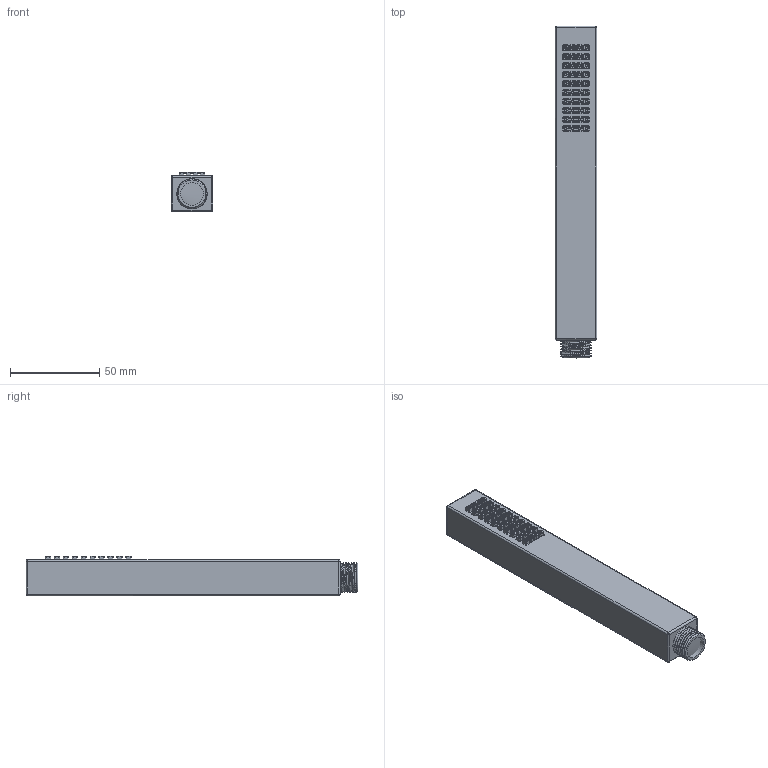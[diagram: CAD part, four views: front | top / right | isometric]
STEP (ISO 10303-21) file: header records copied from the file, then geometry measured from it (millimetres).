
FILE_DESCRIPTION(/* description */ (''),/* implementation_level */ '2;1');
FILE_NAME(/* name */ 'D:\Omnires\Export_Omnires\rys_step\5901867772688_stp.stp',/* time_stamp */ '2020-07-27T14:08:56+02:00',/* author */ (''),/* organization */ (''),/* preprocessor_version */ 'ST-DEVELOPER v18.1',/* originating_system */ 'Autodesk Inventor 2020',/* authorisation */ '');
FILE_SCHEMA (('AUTOMOTIVE_DESIGN { 1 0 10303 214 3 1 1 }'));
Length unit declared in the file: millimetre
Products named in the file (1): 5901867772688_dwg
Bounding box: 23.33 x 185.56 x 22.3 mm (x, y, z)
Surface area: 25792.7 mm2 (no closed solid volume)
Topology: 0 solids, 1 shells, 1149 faces, 2635 edges, 1542 vertices
Faces by surface type: bspline 734, cylinder 225, plane 149, torus 40, cone 1
Full cylindrical faces by diameter (mm): 1.2 x40, 12.764 x1, 15.137 x6, 16.85 x6
Entity records: 71258 total; most frequent: CARTESIAN_POINT 47840, ORIENTED_EDGE 5254, DIRECTION 3340, EDGE_CURVE 2627, VERTEX_POINT 1542, AXIS2_PLACEMENT_3D 1310, EDGE_LOOP 1251, FACE_OUTER_BOUND 1149
